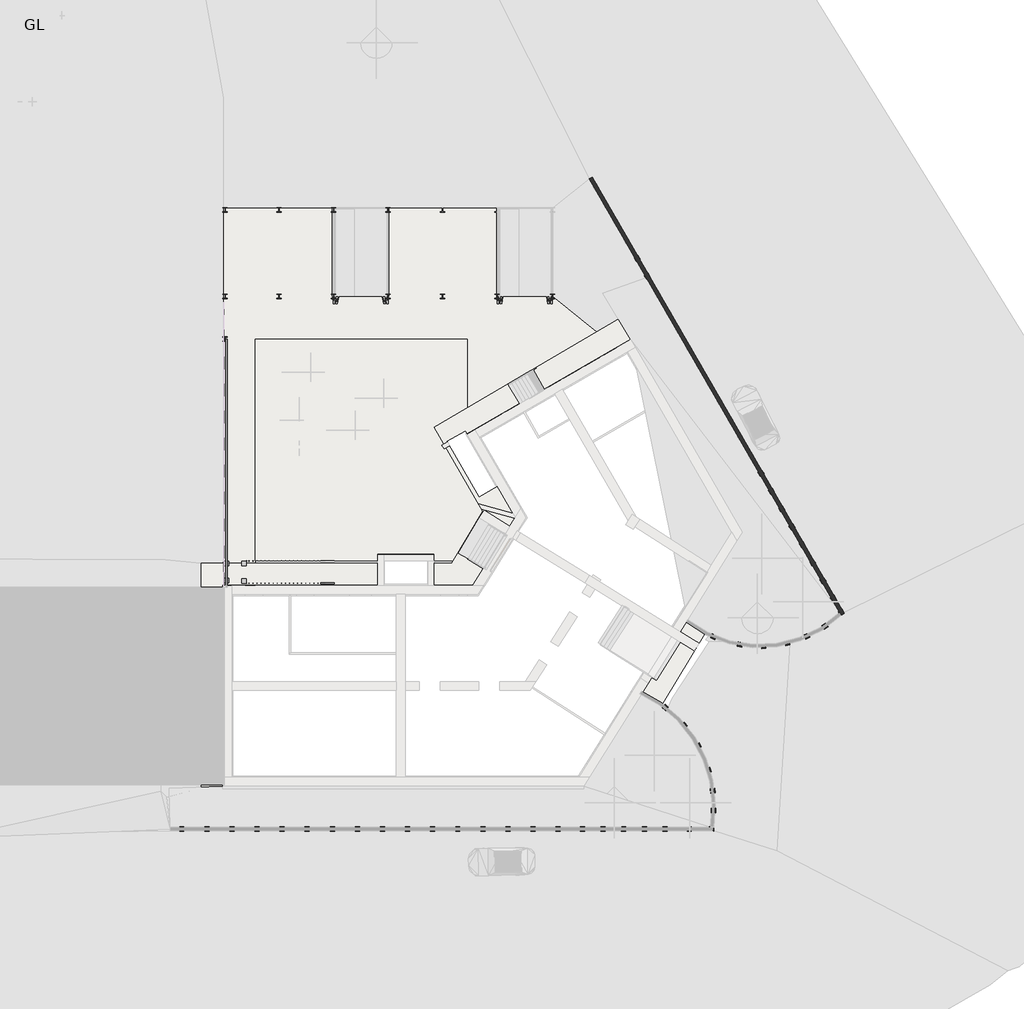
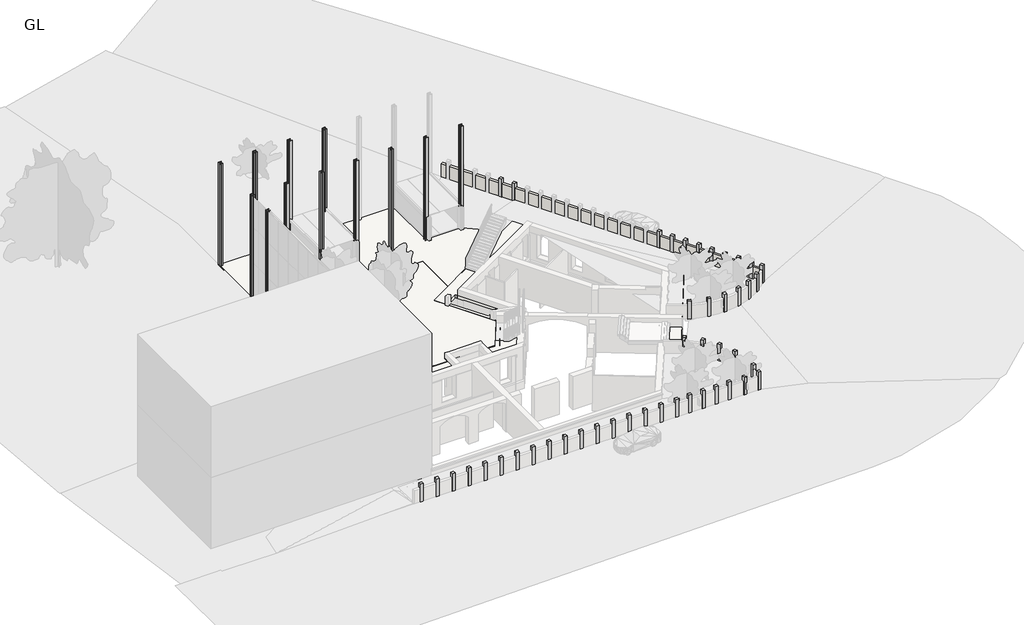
# One storey, part 4 of 6: 62 columns, 4 slabs, 1 wall.
"""IFC4 building model written with IfcOpenShell, lengths in millimetres."""

from ifc_helpers import new_model, si_unit, frame, origin, origin_with_axes, place, context, project, spatial, polyline, circle_curve, outline, extrude, faceted_brep, transform, mapped, element, save
from ifc_brep_helpers import plane_surface, cylinder_surface, advanced_brep
from components import m_concrete_square_column_300_x_300mm_03b24b64, uc_universal_columns_column_uc305x305x97_f7e977a0

model = new_model("IFC4")

# Units and contexts
model_context = context("Model", 3, world=origin())
ifc_project = project(units=[si_unit("LENGTHUNIT", "METRE", prefix="MILLI")], contexts=[model_context])

# Site, building, storey
site = spatial("IfcSite", under=ifc_project)
building = spatial("IfcBuilding", under=site)
storey = spatial("IfcBuildingStorey", under=building, Name="GL", Elevation=0.0)

# Columns
placement = place(None, origin())
element("IfcColumn", 1, ObjectType="M_Concrete-Square-Column : 300 x 300mm", at=placement, inside=storey, context=model_context, shape_type="SweptSolid", body=[
    extrude(outline(polyline([(14688.2629479, 31962.1127008), (14838.2268233, 31702.2842265), (14578.398349, 31552.320351), (14428.4344736, 31812.1488254), (14688.2629479, 31962.1127008)])), origin_with_axes(), (0.0, 0.0, 1.0), 2000.0),
])
element("IfcColumn", 2, ObjectType="M_Concrete-Square-Column : 300 x 300mm", at=placement, inside=storey, context=model_context, shape_type="SweptSolid", body=[
    extrude(outline(polyline([(15388.6001106, 30749.8717652), (15538.563986, 30490.0432909), (15278.7355117, 30340.0794155), (15128.7716363, 30599.9078898), (15388.6001106, 30749.8717652)])), origin_with_axes(), (0.0, 0.0, 1.0), 2000.0),
])
element("IfcColumn", 3, ObjectType="M_Concrete-Square-Column : 300 x 300mm", at=placement, inside=storey, context=model_context, shape_type="SweptSolid", body=[
    extrude(outline(polyline([(25186.5771342, 13774.6060726), (25336.5410096, 13514.7775983), (25076.7125353, 13364.8137228), (24926.7486599, 13624.6421972), (25186.5771342, 13774.6060726)])), origin_with_axes(), (0.0, 0.0, 1.0), 2000.0),
])
element("IfcColumn", 4, ObjectType="M_Concrete-Square-Column : 300 x 300mm", at=placement, inside=storey, context=model_context, shape_type="SweptSolid", body=[
    extrude(outline(polyline([(24486.7457156, 14987.1389527), (24636.709591, 14727.3104784), (24376.8811166, 14577.346603), (24226.9172412, 14837.1750773), (24486.7457156, 14987.1389527)])), origin_with_axes(), (0.0, 0.0, 1.0), 2000.0),
])
element("IfcColumn", 5, ObjectType="M_Concrete-Square-Column : 300 x 300mm", at=placement, inside=storey, context=model_context, shape_type="SweptSolid", body=[
    extrude(outline(polyline([(23786.7457156, 16199.574518), (23936.709591, 15939.7460437), (23676.8811166, 15789.7821683), (23526.9172412, 16049.6106426), (23786.7457156, 16199.574518)])), origin_with_axes(), (0.0, 0.0, 1.0), 2000.0),
])
element("IfcColumn", 6, ObjectType="M_Concrete-Square-Column : 300 x 300mm", at=placement, inside=storey, context=model_context, shape_type="SweptSolid", body=[
    extrude(outline(polyline([(23086.7457156, 17412.0100833), (23236.709591, 17152.181609), (22976.8811166, 17002.2177336), (22826.9172412, 17262.0462079), (23086.7457156, 17412.0100833)])), origin_with_axes(), (0.0, 0.0, 1.0), 2000.0),
])
element("IfcColumn", 7, ObjectType="M_Concrete-Square-Column : 300 x 300mm", at=placement, inside=storey, context=model_context, shape_type="SweptSolid", body=[
    extrude(outline(polyline([(27985.9028087, 8924.4745519), (28135.8666841, 8664.6460776), (27876.0382098, 8514.6822021), (27726.0743344, 8774.5106765), (27985.9028087, 8924.4745519)])), origin_with_axes(), (0.0, 0.0, 1.0), 2000.0),
])
element("IfcColumn", 8, ObjectType="M_Concrete-Square-Column : 300 x 300mm", at=placement, inside=storey, context=model_context, shape_type="SweptSolid", body=[
    extrude(outline(polyline([(27286.0713901, 10137.0074321), (27436.0352655, 9877.1789577), (27176.2067912, 9727.2150823), (27026.2429157, 9987.0435566), (27286.0713901, 10137.0074321)])), origin_with_axes(), (0.0, 0.0, 1.0), 2000.0),
])
element("IfcColumn", 9, ObjectType="M_Concrete-Square-Column : 300 x 300mm", at=placement, inside=storey, context=model_context, shape_type="SweptSolid", body=[
    extrude(outline(polyline([(26586.0713901, 11349.4429974), (26736.0352655, 11089.614523), (26476.2067912, 10939.6506476), (26326.2429157, 11199.4791219), (26586.0713901, 11349.4429974)])), origin_with_axes(), (0.0, 0.0, 1.0), 2000.0),
])
element("IfcColumn", 10, ObjectType="M_Concrete-Square-Column : 300 x 300mm", at=placement, inside=storey, context=model_context, shape_type="SweptSolid", body=[
    extrude(outline(polyline([(25886.0713901, 12561.8785627), (26036.0352655, 12302.0500883), (25776.2067912, 12152.0862129), (25626.2429157, 12411.9146872), (25886.0713901, 12561.8785627)])), origin_with_axes(), (0.0, 0.0, 1.0), 2000.0),
])
element("IfcColumn", 11, ObjectType="M_Concrete-Square-Column : 300 x 300mm", at=placement, inside=storey, context=model_context, shape_type="SweptSolid", body=[
    extrude(outline(polyline([(28535.7703519, 7971.770146), (28685.7342273, 7711.9416717), (28425.905753, 7561.9777963), (28275.9418776, 7821.8062706), (28535.7703519, 7971.770146)])), origin_with_axes(), (0.0, 0.0, 1.0), 2000.0),
])
element("IfcColumn", 12, ObjectType="M_Concrete-Square-Column : 300 x 300mm", at=placement, inside=storey, context=model_context, shape_type="SweptSolid", body=[
    extrude(outline(polyline([(27399.3652995, 7039.3023197), (27571.4040608, 6793.5327841), (27325.6345252, 6621.4940228), (27153.595764, 6867.2635584), (27399.3652995, 7039.3023197)])), origin_with_axes(), (0.0, 0.0, 1.0), 2000.0),
])
element("IfcColumn", 13, ObjectType="M_Concrete-Square-Column : 300 x 300mm", at=placement, inside=storey, context=model_context, shape_type="SweptSolid", body=[
    extrude(outline(polyline([(26222.9780852, 6355.6552122), (26335.321388, 6077.4844332), (26057.150609, 5965.1411303), (25944.8073062, 6243.3119094), (26222.9780852, 6355.6552122)])), origin_with_axes(), (0.0, 0.0, 1.0), 2000.0),
])
element("IfcColumn", 14, ObjectType="M_Concrete-Square-Column : 300 x 300mm", at=placement, inside=storey, context=model_context, shape_type="SweptSolid", body=[
    extrude(outline(polyline([(24921.0230874, 5887.6569156), (24988.4677607, 5595.336516), (24696.1473611, 5527.8918427), (24628.7026878, 5820.2122423), (24921.0230874, 5887.6569156)])), origin_with_axes(), (0.0, 0.0, 1.0), 2000.0),
])
element("IfcColumn", 15, ObjectType="M_Concrete-Square-Column : 300 x 300mm", at=placement, inside=storey, context=model_context, shape_type="SweptSolid", body=[
    extrude(outline(polyline([(23349.2303799, 5642.3247091), (23364.8895124, 5342.7336685), (23065.2984719, 5327.0745361), (23049.6393394, 5626.6655766), (23349.2303799, 5642.3247091)])), origin_with_axes(), (0.0, 0.0, 1.0), 2000.0),
])
element("IfcColumn", 16, ObjectType="M_Concrete-Square-Column : 300 x 300mm", at=placement, inside=storey, context=model_context, shape_type="SweptSolid", body=[
    extrude(outline(polyline([(21769.5718892, 5713.3071425), (21712.8793756, 5418.7125755), (21418.2848086, 5475.405089), (21474.9773222, 5769.999656), (21769.5718892, 5713.3071425)])), origin_with_axes(), (0.0, 0.0, 1.0), 2000.0),
])
element("IfcColumn", 17, ObjectType="M_Concrete-Square-Column : 300 x 300mm", at=placement, inside=storey, context=model_context, shape_type="SweptSolid", body=[
    extrude(outline(polyline([(20011.1317157, 6206.6044689), (19898.1555244, 5928.6901292), (19620.2411847, 6041.6663205), (19733.217376, 6319.5806602), (20011.1317157, 6206.6044689)])), origin_with_axes(), (0.0, 0.0, 1.0), 2000.0),
])
element("IfcColumn", 18, ObjectType="M_Concrete-Square-Column : 300 x 300mm", at=placement, inside=storey, context=model_context, shape_type="SweptSolid", body=[
    extrude(outline(polyline([(12177.5760285, -7045.5627873), (12182.0352839, -6745.5959307), (12482.0021405, -6750.0551861), (12477.5428851, -7050.0220427), (12177.5760285, -7045.5627873)])), origin_with_axes(), (0.0, 0.0, 1.0), 2000.0),
])
element("IfcColumn", 19, ObjectType="M_Concrete-Square-Column : 300 x 300mm", at=placement, inside=storey, context=model_context, shape_type="SweptSolid", body=[
    extrude(outline(polyline([(10777.7306979, -7044.7529286), (10782.1899533, -6744.7860721), (11082.1568099, -6749.2453275), (11077.6975544, -7049.2121841), (10777.7306979, -7044.7529286)])), origin_with_axes(), (0.0, 0.0, 1.0), 2000.0),
])
element("IfcColumn", 20, ObjectType="M_Concrete-Square-Column : 300 x 300mm", at=placement, inside=storey, context=model_context, shape_type="SweptSolid", body=[
    extrude(outline(polyline([(18017.8018312, -7067.68303), (18010.4960256, -6767.7720012), (18310.4070544, -6760.4661956), (18317.71286, -7060.3772244), (18017.8018312, -7067.68303)])), origin_with_axes(), (0.0, 0.0, 1.0), 2000.0),
])
element("IfcColumn", 21, ObjectType="M_Concrete-Square-Column : 300 x 300mm", at=placement, inside=storey, context=model_context, shape_type="SweptSolid", body=[
    extrude(outline(polyline([(16377.1120205, -7047.9923632), (16381.5712759, -6748.0255066), (16681.5381325, -6752.484762), (16677.0788771, -7052.4516186), (16377.1120205, -7047.9923632)])), origin_with_axes(), (0.0, 0.0, 1.0), 2000.0),
])
element("IfcColumn", 22, ObjectType="M_Concrete-Square-Column : 300 x 300mm", at=placement, inside=storey, context=model_context, shape_type="SweptSolid", body=[
    extrude(outline(polyline([(14977.2695967, -7056.9878731), (14981.7288522, -6757.0210165), (15281.6957087, -6761.4802719), (15277.2364533, -7061.4471285), (14977.2695967, -7056.9878731)])), origin_with_axes(), (0.0, 0.0, 1.0), 2000.0),
])
element("IfcColumn", 23, ObjectType="M_Concrete-Square-Column : 300 x 300mm", at=placement, inside=storey, context=model_context, shape_type="SweptSolid", body=[
    extrude(outline(polyline([(13577.427173, -7050.9833829), (13581.8864284, -6751.0165264), (13881.853285, -6755.4757818), (13877.3940295, -7055.4426384), (13577.427173, -7050.9833829)])), origin_with_axes(), (0.0, 0.0, 1.0), 2000.0),
])
element("IfcColumn", 24, ObjectType="M_Concrete-Square-Column : 300 x 300mm", at=placement, inside=storey, context=model_context, shape_type="SweptSolid", body=[
    extrude(outline(polyline([(19525.1587668, -7032.6111564), (19540.5484645, -6733.0061544), (19840.1534665, -6748.3958521), (19824.7637688, -7048.0008541), (19525.1587668, -7032.6111564)])), origin_with_axes(), (0.0, 0.0, 1.0), 2000.0),
])
element("IfcColumn", 25, ObjectType="M_Concrete-Square-Column : 300 x 300mm", at=placement, inside=storey, context=model_context, shape_type="SweptSolid", body=[
    extrude(outline(polyline([(19669.2570194, -5799.7915937), (19666.8896582, -5499.8009345), (19966.8803174, -5497.4335733), (19969.2476786, -5797.4242325), (19669.2570194, -5799.7915937)])), origin_with_axes(), (0.0, 0.0, 1.0), 2000.0),
])
element("IfcColumn", 26, ObjectType="M_Concrete-Square-Column : 300 x 300mm", at=placement, inside=storey, context=model_context, shape_type="SweptSolid", body=[
    extrude(outline(polyline([(19629.6296642, -4483.4622334), (19590.5572441, -4186.0175394), (19888.0019381, -4146.9451193), (19927.0743582, -4444.3898133), (19629.6296642, -4483.4622334)])), origin_with_axes(), (0.0, 0.0, 1.0), 2000.0),
])
element("IfcColumn", 27, ObjectType="M_Concrete-Square-Column : 300 x 300mm", at=placement, inside=storey, context=model_context, shape_type="SweptSolid", body=[
    extrude(outline(polyline([(19376.9248564, -3115.8915858), (19274.0261473, -2834.0904935), (19555.8272396, -2731.1917843), (19658.7259488, -3012.9928767), (19376.9248564, -3115.8915858)])), origin_with_axes(), (0.0, 0.0, 1.0), 2000.0),
])
element("IfcColumn", 28, ObjectType="M_Concrete-Square-Column : 300 x 300mm", at=placement, inside=storey, context=model_context, shape_type="SweptSolid", body=[
    extrude(outline(polyline([(18707.9003144, -1476.594655), (18576.1402698, -1207.0778825), (18845.6570423, -1075.3178379), (18977.4170869, -1344.8346103), (18707.9003144, -1476.594655)])), origin_with_axes(), (0.0, 0.0, 1.0), 2000.0),
])
element("IfcColumn", 29, ObjectType="M_Concrete-Square-Column : 300 x 300mm", at=placement, inside=storey, context=model_context, shape_type="SweptSolid", body=[
    extrude(outline(polyline([(17784.3307922, -84.5191037), (17599.8614203, 152.0629134), (17836.4434374, 336.5322853), (18020.9128093, 99.9502682), (17784.3307922, -84.5191037)])), origin_with_axes(), (0.0, 0.0, 1.0), 2000.0),
])
element("IfcColumn", 30, ObjectType="M_Concrete-Square-Column : 300 x 300mm", at=placement, inside=storey, context=model_context, shape_type="SweptSolid", body=[
    extrude(outline(polyline([(16560.2773889, 1122.1964995), (16333.2679205, 1318.3257967), (16529.3972177, 1545.3352652), (16756.4066862, 1349.205968), (16560.2773889, 1122.1964995)])), origin_with_axes(), (0.0, 0.0, 1.0), 2000.0),
])
element("IfcColumn", 31, ObjectType="M_Concrete-Square-Column : 300 x 300mm", at=placement, inside=storey, context=model_context, shape_type="SweptSolid", body=[
    extrude(outline(polyline([(9132.9378291, -7040.7846886), (9132.3749323, -6740.7852167), (9432.3744042, -6740.2223199), (9432.937301, -7040.2217918), (9132.9378291, -7040.7846886)])), origin_with_axes(), (0.0, 0.0, 1.0), 2000.0),
])
element("IfcColumn", 32, ObjectType="M_Concrete-Square-Column : 300 x 300mm", at=placement, inside=storey, context=model_context, shape_type="SweptSolid", body=[
    extrude(outline(polyline([(7432.9378291, -7040.7846886), (7432.3749323, -6740.7852167), (7732.3744042, -6740.2223199), (7732.937301, -7040.2217918), (7432.9378291, -7040.7846886)])), origin_with_axes(), (0.0, 0.0, 1.0), 2000.0),
])
element("IfcColumn", 33, ObjectType="M_Concrete-Square-Column : 300 x 300mm", at=placement, inside=storey, context=model_context, shape_type="SweptSolid", body=[
    extrude(outline(polyline([(5732.9378291, -7055.7846886), (5732.3749323, -6755.7852167), (6032.3744042, -6755.2223199), (6032.937301, -7055.2217918), (5732.9378291, -7055.7846886)])), origin_with_axes(), (0.0, 0.0, 1.0), 2000.0),
])
element("IfcColumn", 34, ObjectType="M_Concrete-Square-Column : 300 x 300mm", at=placement, inside=storey, context=model_context, shape_type="SweptSolid", body=[
    extrude(outline(polyline([(4032.9378291, -7055.7846886), (4032.3749323, -6755.7852167), (4332.3744042, -6755.2223199), (4332.937301, -7055.2217918), (4032.9378291, -7055.7846886)])), origin_with_axes(), (0.0, 0.0, 1.0), 2000.0),
])
element("IfcColumn", 35, ObjectType="M_Concrete-Square-Column : 300 x 300mm", at=placement, inside=storey, context=model_context, shape_type="SweptSolid", body=[
    extrude(outline(polyline([(2332.9378291, -7055.7846886), (2332.3749323, -6755.7852167), (2632.3744042, -6755.2223199), (2632.937301, -7055.2217918), (2332.9378291, -7055.7846886)])), origin_with_axes(), (0.0, 0.0, 1.0), 2000.0),
])
element("IfcColumn", 36, ObjectType="M_Concrete-Square-Column : 300 x 300mm", at=placement, inside=storey, context=model_context, shape_type="SweptSolid", body=[
    extrude(outline(polyline([(632.9378291, -7055.7846886), (632.3749323, -6755.7852167), (932.3744042, -6755.2223199), (932.937301, -7055.2217918), (632.9378291, -7055.7846886)])), origin_with_axes(), (0.0, 0.0, 1.0), 2000.0),
])
element("IfcColumn", 37, ObjectType="M_Concrete-Square-Column : 300 x 300mm", at=placement, inside=storey, context=model_context, shape_type="SweptSolid", body=[
    extrude(outline(polyline([(-1067.0621709, -7040.7846886), (-1067.6250677, -6740.7852167), (-767.6255958, -6740.2223199), (-767.062699, -7040.2217918), (-1067.0621709, -7040.7846886)])), origin_with_axes(), (0.0, 0.0, 1.0), 2000.0),
])
element("IfcColumn", 38, ObjectType="M_Concrete-Square-Column : 300 x 300mm", at=placement, inside=storey, context=model_context, shape_type="SweptSolid", body=[
    extrude(outline(polyline([(-2767.0621709, -7040.7846886), (-2767.6250677, -6740.7852167), (-2467.6255958, -6740.2223199), (-2467.062699, -7040.2217918), (-2767.0621709, -7040.7846886)])), origin_with_axes(), (0.0, 0.0, 1.0), 2000.0),
])
element("IfcColumn", 39, ObjectType="M_Concrete-Square-Column : 300 x 300mm", at=placement, inside=storey, context=model_context, shape_type="SweptSolid", body=[
    extrude(outline(polyline([(-4467.0621709, -7055.7846886), (-4467.6250677, -6755.7852167), (-4167.6255958, -6755.2223199), (-4167.062699, -7055.2217918), (-4467.0621709, -7055.7846886)])), origin_with_axes(), (0.0, 0.0, 1.0), 2000.0),
])
element("IfcColumn", 40, ObjectType="M_Concrete-Square-Column : 300 x 300mm", at=placement, inside=storey, context=model_context, shape_type="SweptSolid", body=[
    extrude(outline(polyline([(-6167.0621709, -7055.7846886), (-6167.6250677, -6755.7852167), (-5867.6255958, -6755.2223199), (-5867.062699, -7055.2217918), (-6167.0621709, -7055.7846886)])), origin_with_axes(), (0.0, 0.0, 1.0), 2000.0),
])
element("IfcColumn", 41, ObjectType="M_Concrete-Square-Column : 300 x 300mm", at=placement, inside=storey, context=model_context, shape_type="SweptSolid", body=[
    extrude(outline(polyline([(-7867.0621709, -7055.7846886), (-7867.6250677, -6755.7852167), (-7567.6255958, -6755.2223199), (-7567.062699, -7055.2217918), (-7867.0621709, -7055.7846886)])), origin_with_axes(), (0.0, 0.0, 1.0), 2000.0),
])
element("IfcColumn", 42, ObjectType="M_Concrete-Square-Column : 300 x 300mm", at=placement, inside=storey, context=model_context, shape_type="SweptSolid", body=[
    extrude(outline(polyline([(-9567.0621709, -7055.7846886), (-9567.6250677, -6755.7852167), (-9267.6255958, -6755.2223199), (-9267.062699, -7055.2217918), (-9567.0621709, -7055.7846886)])), origin_with_axes(), (0.0, 0.0, 1.0), 2000.0),
])
element("IfcColumn", 43, ObjectType="M_Concrete-Square-Column : 300 x 300mm", at=placement, inside=storey, context=model_context, shape_type="SweptSolid", body=[
    extrude(outline(polyline([(-11267.0621709, -7040.7846886), (-11267.6250677, -6740.7852167), (-10967.6255958, -6740.2223199), (-10967.062699, -7040.2217918), (-11267.0621709, -7040.7846886)])), origin_with_axes(), (0.0, 0.0, 1.0), 2000.0),
])
element("IfcColumn", 44, ObjectType="M_Concrete-Square-Column : 300 x 300mm", at=placement, inside=storey, context=model_context, shape_type="SweptSolid", body=[
    extrude(outline(polyline([(-12967.0621709, -7040.7846886), (-12967.6250677, -6740.7852167), (-12667.6255958, -6740.2223199), (-12667.062699, -7040.2217918), (-12967.0621709, -7040.7846886)])), origin_with_axes(), (0.0, 0.0, 1.0), 2000.0),
])
element("IfcColumn", 45, ObjectType="M_Concrete-Square-Column : 300 x 300mm", at=placement, inside=storey, context=model_context, shape_type="SweptSolid", body=[
    extrude(outline(polyline([(-14667.0621709, -7055.7846886), (-14667.6250677, -6755.7852167), (-14367.6255958, -6755.2223199), (-14367.062699, -7055.2217918), (-14667.0621709, -7055.7846886)])), origin_with_axes(), (0.0, 0.0, 1.0), 2000.0),
])
element("IfcColumn", 46, ObjectType="M_Concrete-Square-Column : 300 x 300mm", at=placement, inside=storey, context=model_context, shape_type="SweptSolid", body=[
    extrude(outline(polyline([(-16367.0621709, -7055.7846886), (-16367.6250677, -6755.7852167), (-16067.6255958, -6755.2223199), (-16067.062699, -7055.2217918), (-16367.0621709, -7055.7846886)])), origin_with_axes(), (0.0, 0.0, 1.0), 2000.0),
])
m_concrete_square_column_300_x_300mm_shape = m_concrete_square_column_300_x_300mm_03b24b64(model_context)
element("IfcColumn", 47, ObjectType="M_Concrete-Square-Column : 300 x 300mm", at=placement, inside=storey, context=model_context, shape_type="MappedRepresentation", body=[
    mapped(m_concrete_square_column_300_x_300mm_shape, transform((-11988.7276182, 11092.7723759, 0.0), x_axis=(1.0, 0.0, 0.0), y_axis=(0.0, 1.0, 0.0), z_axis=(0.0, 0.0, 1.0))),
])
element("IfcColumn", 48, ObjectType="M_Concrete-Square-Column : 300 x 300mm", at=placement, inside=storey, context=model_context, shape_type="MappedRepresentation", body=[
    mapped(m_concrete_square_column_300_x_300mm_shape, transform((-13171.6874983, 11092.7723759, 0.0), x_axis=(1.0, 0.0, 0.0), y_axis=(0.0, 1.0, 0.0), z_axis=(0.0, 0.0, 1.0))),
])
element("IfcColumn", 49, ObjectType="M_Concrete-Square-Column : 300 x 300mm", at=placement, inside=storey, context=model_context, shape_type="MappedRepresentation", body=[
    mapped(m_concrete_square_column_300_x_300mm_shape, transform((-13171.6874983, 9932.1112572, 0.0), x_axis=(1.0, 0.0, 0.0), y_axis=(0.0, 1.0, 0.0), z_axis=(0.0, 0.0, 1.0))),
])
element("IfcColumn", 50, ObjectType="M_Concrete-Square-Column : 300 x 300mm", at=placement, inside=storey, context=model_context, shape_type="MappedRepresentation", body=[
    mapped(m_concrete_square_column_300_x_300mm_shape, transform((-11988.7276182, 9890.0288254, 0.0), x_axis=(1.0, 0.0, 0.0), y_axis=(0.0, 1.0, 0.0), z_axis=(0.0, 0.0, 1.0))),
])
uc_universal_columns_column_uc305x305x97_shape = uc_universal_columns_column_uc305x305x97_f7e977a0(model_context)
element("IfcColumn", 51, ObjectType="UC-Universal Columns-Column : UC305x305x97", at=placement, inside=storey, context=model_context, shape_type="MappedRepresentation", body=[
    mapped(uc_universal_columns_column_uc305x305x97_shape, transform((-13277.0617256, 29190.0288254, 0.0), x_axis=(1.0, 0.0, 0.0), y_axis=(0.0, 1.0, 0.0), z_axis=(0.0, 0.0, 1.0))),
])
element("IfcColumn", 52, ObjectType="UC-Universal Columns-Column : UC305x305x97", at=placement, inside=storey, context=model_context, shape_type="MappedRepresentation", body=[
    mapped(uc_universal_columns_column_uc305x305x97_shape, transform((-9631.6874983, 29190.0288254, 0.0), x_axis=(1.0, 0.0, 0.0), y_axis=(0.0, 1.0, 0.0), z_axis=(0.0, 0.0, 1.0))),
])
element("IfcColumn", 53, ObjectType="UC-Universal Columns-Column : UC305x305x97", at=placement, inside=storey, context=model_context, shape_type="MappedRepresentation", body=[
    mapped(uc_universal_columns_column_uc305x305x97_shape, transform((-5929.1066547, 29190.0288254, 0.0), x_axis=(1.0, 0.0, 0.0), y_axis=(0.0, 1.0, 0.0), z_axis=(0.0, 0.0, 1.0))),
])
element("IfcColumn", 54, ObjectType="UC-Universal Columns-Column : UC305x305x97", at=placement, inside=storey, context=model_context, shape_type="MappedRepresentation", body=[
    mapped(uc_universal_columns_column_uc305x305x97_shape, transform((-2245.9725728, 29190.0288254, 0.0), x_axis=(1.0, 0.0, 0.0), y_axis=(0.0, 1.0, 0.0), z_axis=(0.0, 0.0, 1.0))),
])
element("IfcColumn", 55, ObjectType="UC-Universal Columns-Column : UC305x305x97", at=placement, inside=storey, context=model_context, shape_type="MappedRepresentation", body=[
    mapped(uc_universal_columns_column_uc305x305x97_shape, transform((1448.4037035, 29190.0288254, 0.0), x_axis=(1.0, 0.0, 0.0), y_axis=(0.0, 1.0, 0.0), z_axis=(0.0, 0.0, 1.0))),
])
element("IfcColumn", 56, ObjectType="UC-Universal Columns-Column : UC305x305x97", at=placement, inside=storey, context=model_context, shape_type="MappedRepresentation", body=[
    mapped(uc_universal_columns_column_uc305x305x97_shape, transform((5139.3879332, 29190.0288254, 0.0), x_axis=(1.0, 0.0, 0.0), y_axis=(0.0, 1.0, 0.0), z_axis=(0.0, 0.0, 1.0))),
])
element("IfcColumn", 57, ObjectType="UC-Universal Columns-Column : UC305x305x97", at=placement, inside=storey, context=model_context, shape_type="MappedRepresentation", body=[
    mapped(uc_universal_columns_column_uc305x305x97_shape, transform((8901.9425222, 29190.0288254, 0.0), x_axis=(1.0, 0.0, 0.0), y_axis=(0.0, 1.0, 0.0), z_axis=(0.0, 0.0, 1.0))),
])
element("IfcColumn", 58, ObjectType="UC-Universal Columns-Column : UC305x305x97", at=placement, inside=storey, context=model_context, shape_type="MappedRepresentation", body=[
    mapped(uc_universal_columns_column_uc305x305x97_shape, transform((-13277.0617256, 35051.9809735, 0.0), x_axis=(1.0, 0.0, 0.0), y_axis=(0.0, 1.0, 0.0), z_axis=(0.0, 0.0, 1.0))),
])
element("IfcColumn", 59, ObjectType="UC-Universal Columns-Column : UC305x305x97", at=placement, inside=storey, context=model_context, shape_type="MappedRepresentation", body=[
    mapped(uc_universal_columns_column_uc305x305x97_shape, transform((-9631.6874983, 35051.9809735, 0.0), x_axis=(1.0, 0.0, 0.0), y_axis=(0.0, 1.0, 0.0), z_axis=(0.0, 0.0, 1.0))),
])
element("IfcColumn", 60, ObjectType="UC-Universal Columns-Column : UC305x305x97", at=placement, inside=storey, context=model_context, shape_type="MappedRepresentation", body=[
    mapped(uc_universal_columns_column_uc305x305x97_shape, transform((-5929.1066547, 35051.9809735, 0.0), x_axis=(1.0, 0.0, 0.0), y_axis=(0.0, 1.0, 0.0), z_axis=(0.0, 0.0, 1.0))),
])
element("IfcColumn", 61, ObjectType="UC-Universal Columns-Column : UC305x305x97", at=placement, inside=storey, context=model_context, shape_type="MappedRepresentation", body=[
    mapped(uc_universal_columns_column_uc305x305x97_shape, transform((-2245.9725728, 35051.9809735, 0.0), x_axis=(1.0, 0.0, 0.0), y_axis=(0.0, 1.0, 0.0), z_axis=(0.0, 0.0, 1.0))),
])
element("IfcColumn", 62, ObjectType="UC-Universal Columns-Column : UC305x305x97", at=placement, inside=storey, context=model_context, shape_type="MappedRepresentation", body=[
    mapped(uc_universal_columns_column_uc305x305x97_shape, transform((-13277.0617256, 26290.0288254, 0.0), x_axis=(1.0, 0.0, 0.0), y_axis=(0.0, 1.0, 0.0), z_axis=(0.0, 0.0, 1.0))),
])

# Slabs
element("IfcSlab", 63, ObjectType="Floor-Upper_160mmConc-CorusComFlor51", at=placement, inside=storey, context=model_context, shape_type="SweptSolid", body=[
    extrude(outline(polyline([(-11231.9484639, 11290.0288254), (-11231.9484639, 26292.1681881), (3132.0366131, 26292.1681881), (3132.0366131, 21613.9802264), (916.555755, 20334.8717566), (4442.2761339, 14228.1449272), (2676.8778742, 11290.0288254), (-11231.9484639, 11290.0288254)])), frame((0.0, 0.0, -211.0), z_axis=(0.0, 0.0, 1.0), x_axis=(1.0, 0.0, 0.0)), (0.0, 0.0, 1.0), 211.0),
])
element("IfcSlab", 64, ObjectType="Floor_Timber_22Cbd-225Joist", at=placement, inside=storey, context=model_context, shape_type="SweptSolid", body=[
    extrude(outline(polyline([(-13431.6874983, 35190.0288254), (8928.2976061, 35190.0288254), (8928.2976061, 29190.0288254), (13238.6867343, 25696.1551565), (3132.0366131, 19861.0779885), (3132.0366131, 26292.1681881), (-11231.9484639, 26292.1681881), (-11231.9484639, 9590.0288254), (-13431.6874983, 9590.0288254), (-13431.6874983, 35190.0288254)])), frame((0.0, 0.0, -247.0), z_axis=(0.0, 0.0, 1.0), x_axis=(1.0, 0.0, 0.0)), (0.0, 0.0, 1.0), 247.0),
])
element("IfcSlab", 65, ObjectType="Standard", at=placement, inside=storey, context=model_context, shape_type="Brep", body=[
    faceted_brep([(-15331.6874983, 265.617935, -250.0), (-15331.6874983, 5145.617935, -250.0), (-14931.6874983, 5145.617935, -250.0), (-14931.6874983, 11090.0288254, -250.0), (-14792.7986094, 10951.1399365, -250.0), (-2951.9484639, 10951.1399365, -250.0), (-2951.9484639, 11090.0288254, -250.0), (-14931.6874983, 11097.200745, -250.0), (-2951.9484639, 11097.200745, -250.0), (-2951.9484639, 11730.0919567, -250.0), (868.0515361, 11730.0919567, -250.0), (868.0515361, 11110.0919567, -250.0), (2085.9090838, 11110.0919567, -250.0), (4190.9668314, 14613.4963753, -250.0), (904.9843874, 20304.9849211, -250.0), (14676.7337005, 28399.6110767, -250.0), (20848.0962075, 17710.4976627, -250.0), (14695.2543507, 28178.6025494, -250.0), (14721.6282982, 28284.3826753, -250.0), (2382.0366131, 21160.1160941, -250.0), (2451.4810575, 21039.8347881, -250.0), (14674.9184356, 28097.0396487, -250.0), (14673.0192445, 28089.4224092, -250.0), (23233.1739505, 13262.7995377, -250.0), (18410.839111, 5238.5434674, -250.0), (18518.4283396, 5173.8855999, -250.0), (12115.3256348, -5392.8879269, -250.0), (12098.2892008, -5371.0822857, -250.0), (-14792.7986094, -5371.0822857, -250.0), (-14792.7986094, 265.5548037, -250.0), (11034.8726536, -3989.9080433, -250.0), (21757.1517651, 13221.4953796, -250.0), (14217.1617815, 26281.1411198, -250.0), (3132.0366131, 19881.1411198, -250.0), (6391.9075202, 14234.8790825, -250.0), (3502.0197862, 9610.0919567, -250.0), (468.0515361, 9610.0919567, -250.0), (468.0515361, 11290.0288254, -250.0), (-2531.9484639, 11290.0288254, -250.0), (-2531.9484639, 9610.0919567, -250.0), (-13431.6874983, 9610.0919567, -250.0), (-13431.6874983, 4705.5548037, -250.0), (-14931.6874983, 4705.5548037, -250.0), (-14931.6874983, 665.5548037, -250.0), (-13431.6874983, 665.5548037, -250.0), (-13431.6874983, -3989.9080433, -250.0), (868.0515361, 10951.1399365, -250.0), (3202.0197862, 10951.1399365, -250.0), (3202.0197862, 11090.0288254, -250.0), (868.0515361, 11090.0288254, -250.0), (16898.5170457, 2739.2972405, -250.0), (11957.8963246, -5191.3875986, -250.0), (12018.1213558, -5268.4721233, -250.0), (12286.0096098, -4838.4578731, -250.0), (16976.4991253, 2690.7163316, -250.0), (5147.4336253, 16320.307966, -250.0), (2992.4336253, 20052.8774563, -250.0), (1787.1324618, 19356.9965051, -250.0), (3942.1324618, 15624.4270148, -250.0), (23372.9078007, 13225.7443013, -250.0), (23397.8058469, 13226.1189387, -250.0), (20405.2416121, 8287.6149054, -250.0), (12056.5347685, -5489.9080433, 50.0), (23417.9554197, 13259.3709389, 50.0), (14676.7337005, 28399.6110767, 50.0), (904.9843874, 20304.9849211, 50.0), (4190.9668314, 14613.4963753, 50.0), (2085.9090838, 11110.0919567, 50.0), (868.0515361, 11110.0919567, 50.0), (868.0515361, 11730.0919567, 50.0), (-2951.9484639, 11730.0919567, 50.0), (-2951.9484639, 11097.200745, 50.0), (-14931.6874983, 11097.200745, 50.0), (-14931.6874983, 5145.617935, 50.0), (-15331.6874983, 5145.617935, 50.0), (-15331.6874983, 265.617935, 50.0), (-14931.6874983, 265.617935, 50.0), (-14931.6874983, -5489.9080433, 50.0), (21757.1517651, 13221.4953796, 50.0), (11034.8726536, -3989.9080433, 50.0), (-13431.6874983, -3989.9080433, 50.0), (-13431.6874983, 665.5548037, 50.0), (-14931.6874983, 665.5548037, 50.0), (-14931.6874983, 4705.5548037, 50.0), (-13431.6874983, 4705.5548037, 50.0), (-13431.6874983, 9610.0919567, 50.0), (-2531.9484639, 9610.0919567, 50.0), (-2531.9484639, 11290.0288254, 50.0), (468.0515361, 11290.0288254, 50.0), (468.0515361, 9610.0919567, 50.0), (3502.0197862, 9610.0919567, 50.0), (6391.9075202, 14234.8790825, 50.0), (3132.0366131, 19881.1411198, 50.0), (14217.1617815, 26281.1411198, 50.0), (2992.4336253, 20052.8774563, 50.0), (5147.4336253, 16320.307966, 50.0), (3942.1324618, 15624.4270148, 50.0), (1787.1324618, 19356.9965051, 50.0), (12056.5347685, -5489.9080433, -36.1136364), (12115.3256348, -5392.8879269, -210.7498459), (18518.4283396, 5173.8855999, -24.0061659), (20405.2416121, 8287.6149054, 0.0), (23397.8058469, 13226.1189387, -17.4666489), (23417.9554197, 13259.3709389, 46.314166), (-14931.6874983, -5489.9080433, 0.0), (-14911.624367, -5489.9080433, -36.1136364), (-14931.6874983, 265.617935, 0.0), (20848.0962075, 17710.4976627, 46.314166), (14695.2543507, 28178.6025494, -130.497711), (23372.9078007, 13225.7443013, -58.1759247), (23391.2124362, 13256.2028007, 0.0), (14695.2543507, 28178.6025494, -141.1583444), (2382.0366131, 21160.1160941, 0.0), (14721.6282982, 28284.3826753, 0.0), (-14931.6874983, 11090.0288254, 0.0), (-2951.9484639, 11090.0288254, 0.0), (868.0515361, 11090.0288254, 0.0), (3202.0197862, 11090.0288254, 0.0), (12286.0096098, -4838.4578731, -90.1435077), (12018.1213558, -5268.4721233, -90.1435077), (16976.4991253, 2690.7163316, -90.1435077)], [[[0, 1, 2, 3, 4, 5, 6, 3, 7, 8, 9, 10, 11, 12, 13, 14, 15, 16, 17, 18, 19, 20, 21, 22, 23, 24, 25, 26, 27, 28, 29], [30, 31, 32, 33, 34, 35, 36, 37, 38, 39, 40, 41, 42, 43, 44, 45], [46, 47, 48, 49], [50, 51, 52, 53, 54], [55, 56, 57, 58]], [[59, 60, 61]], [[62, 63, 64, 65, 66, 67, 68, 69, 70, 71, 72, 73, 74, 75, 76, 77], [78, 79, 80, 81, 82, 83, 84, 85, 86, 87, 88, 89, 90, 91, 92, 93], [94, 95, 96, 97]], [[63, 62, 98, 99, 26, 25, 100, 101, 61, 60, 102, 103]], [[62, 77, 104, 105, 98]], [[77, 76, 106, 104]], [[76, 75, 0, 29, 106]], [[1, 0, 75, 74]], [[2, 1, 74, 73]], [[73, 72, 7, 3, 2]], [[8, 7, 72, 71]], [[9, 8, 71, 70]], [[10, 9, 70, 69]], [[11, 10, 69, 68]], [[13, 12, 67, 66]], [[14, 13, 66, 65]], [[15, 14, 65, 64]], [[64, 63, 103, 107, 16, 15]], [[12, 11, 68, 67]], [[31, 30, 79, 78]], [[32, 31, 78, 93]], [[33, 32, 93, 92]], [[34, 33, 92, 91]], [[35, 34, 91, 90]], [[40, 39, 86, 85]], [[45, 44, 81, 80]], [[30, 45, 80, 79]], [[108, 107, 103, 102, 109, 110, 23, 22]], [[107, 108, 111, 17, 16]], [[102, 60, 59, 109]], [[106, 29, 28, 105, 104]], [[100, 24, 23, 110, 101]], [[61, 101, 110, 109, 59]], [[24, 100, 25]], [[112, 113, 111, 21, 20]], [[112, 20, 19]], [[113, 112, 19, 18]], [[111, 113, 18, 17]], [[114, 115, 5, 4]], [[114, 4, 3]], [[115, 114, 3, 6]], [[5, 115, 6]], [[116, 117, 47, 46]], [[116, 46, 49]], [[117, 116, 49, 48]], [[47, 117, 48]], [[28, 27, 99, 98, 105]], [[99, 27, 26]], [[118, 119, 51, 50, 120]], [[120, 50, 54]], [[118, 120, 54, 53]], [[119, 118, 53, 52]], [[51, 119, 52]], [[108, 22, 21, 111]], [[36, 35, 90, 89]], [[37, 36, 89, 88]], [[38, 37, 88, 87]], [[39, 38, 87, 86]], [[41, 40, 85, 84]], [[42, 41, 84, 83]], [[43, 42, 83, 82]], [[44, 43, 82, 81]], [[56, 55, 95, 94]], [[57, 56, 94, 97]], [[58, 57, 97, 96]], [[55, 58, 96, 95]]]),
])
element("IfcSlab", 66, ObjectType="Standard 2", at=placement, inside=storey, context=model_context, shape_type="Brep", body=[
    faceted_brep([(-13431.6874983, 265.5548037, -3523.6504113), (-13431.6874983, -4009.9711746, -3523.6504113), (-14931.6874983, -5509.9711746, -823.6504113), (-14931.6874983, 265.5548037, -823.6504113), (-13431.6874983, -4009.9711746, -2700.0), (-13431.6874983, 265.5548037, -2700.0), (-14792.7986094, 265.5548037, -250.0), (-14931.6874983, 265.5548037, 0.0), (-14931.6874983, -5489.9080433, 0.0), (-14931.6874983, -5509.9711746, 0.0)], [[[0, 1, 2, 3]], [[4, 5, 6, 7, 8, 9]], [[1, 0, 5, 4]], [[2, 1, 4, 9]], [[3, 2, 9, 8, 7]], [[0, 3, 7, 6, 5]]]),
])

# Wall
element("IfcWall", 67, ObjectType="Wall-Ext_215Bwk", at=placement, inside=storey, context=model_context, shape_type="AdvancedBrep", body=[
    advanced_brep(
    [(11398.8168781, 37142.5945545, 0.0), (28356.948433, 7770.2490999, 0.0), (28467.5827329, 7578.6248715, 0.0), (28467.5827329, 7578.6248715, 1500.0), (28356.948433, 7770.2490999, 1500.0), (11398.8168781, 37142.5945545, 1500.0), (11585.0123399, 37250.0945545, 0.0), (11585.0123399, 37250.0945545, 1500.0), (28626.4291722, 7733.4947679, 1500.0), (28626.4291722, 7733.4947679, 0.0)],
    [
        (0, 1),
        (1, 2),
        (2, 3),
        (3, 4),
        (4, 5),
        (5, 0),
        (6, 7),
        (7, 8),
        (8, 9),
        (9, 6),
        (0, 6),
        (9, 2, circle_curve(frame((22935.6449008, 13411.501926, 0.0), z_axis=(0.0, 0.0, -1.0), x_axis=(1.0, 0.0, 0.0)), 8038.9545906)),
        (3, 8, circle_curve(frame((22935.6449008, 13411.501926, 1500.0), z_axis=(0.0, 0.0, 1.0), x_axis=(1.0, 0.0, 0.0)), 8038.9545906)),
        (7, 5),
    ],
    [
        plane_surface(frame((24742.2756237, 14031.0460583, 0.0), z_axis=(-0.8660254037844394, -0.49999999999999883, 0.0), x_axis=(0.49999999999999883, -0.8660254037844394, 0.0))),
        plane_surface(frame((24928.4710856, 14138.5460583, 0.0), z_axis=(0.8660254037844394, 0.49999999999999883, 0.0), x_axis=(-0.49999999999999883, 0.8660254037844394, 0.0))),
        plane_surface(frame((11398.8168781, 37142.5945545, 0.0), z_axis=(0.0, 0.0, -1.0), x_axis=(0.8660254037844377, 0.5000000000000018, 0.0))),
        plane_surface(frame((28398.8168781, 7697.7308259, 1500.0), z_axis=(0.0, 0.0, 1.0), x_axis=(0.8660254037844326, 0.5000000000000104, 0.0))),
        plane_surface(frame((11398.8168781, 37142.5945545, 1500.0), z_axis=(-0.5000000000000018, 0.8660254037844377, 0.0), x_axis=(0.8660254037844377, 0.5000000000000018, 0.0))),
        cylinder_surface(frame((22935.6449008, 13411.501926, 0.0), z_axis=(0.0, 0.0, 1.0), x_axis=(1.0, 0.0, 0.0)), 8038.9545906),
    ],
    [
        (0, [[1, 2, 3, 4, 5, 6]]),
        (1, [[7, 8, 9, 10]]),
        (2, [[-2, -1, 11, -10, 12]]),
        (3, [[-5, -4, 13, -8, 14]]),
        (4, [[-6, -14, -7, -11]]),
        (5, [[-3, -12, -9, -13]]),
    ],
),
])

save(model, "model.ifc")
